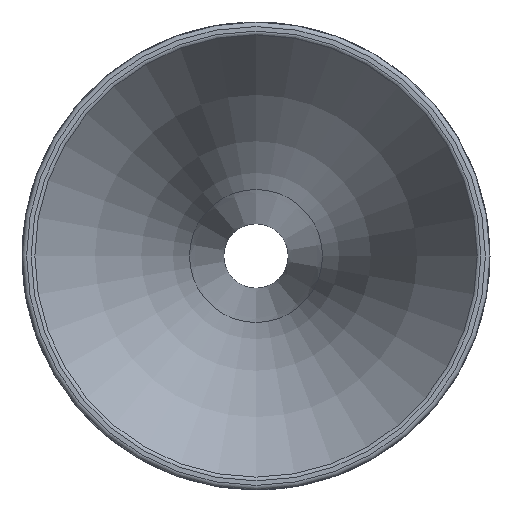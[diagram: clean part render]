
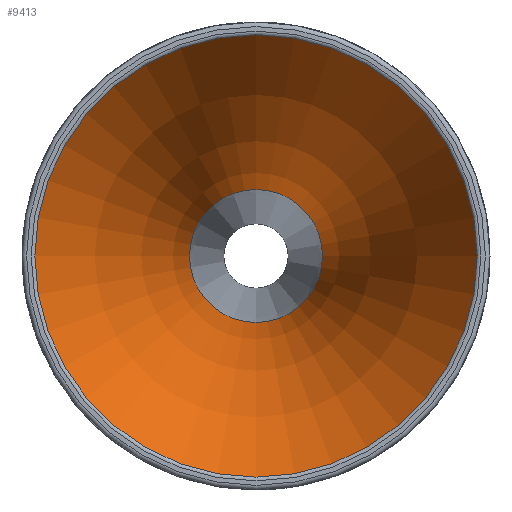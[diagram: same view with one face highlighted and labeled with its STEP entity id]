
A CAD part, front view. The second image highlights one B-rep face of the part: STEP entity #9413.
In plain terms, the highlighted toroidal (fillet/blend) face has major radius 297.261 mm and minor radius 275.091 mm.
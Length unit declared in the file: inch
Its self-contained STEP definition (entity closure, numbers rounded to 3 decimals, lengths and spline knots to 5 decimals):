
#64=TOROIDAL_SURFACE('',#10081,11.7032,10.83034);
#2281=FACE_OUTER_BOUND('',#2847,.T.);
#2847=EDGE_LOOP('',(#8580,#8581,#8582,#8583));
#3010=CIRCLE('',#9850,3.01208);
#3145=CIRCLE('',#10080,0.90625);
#3146=CIRCLE('',#10082,10.83034);
#4318=VERTEX_POINT('',#19391);
#4468=VERTEX_POINT('',#21230);
#5572=EDGE_CURVE('',#4318,#4318,#3010,.T.);
#5848=EDGE_CURVE('',#4468,#4468,#3145,.T.);
#5849=EDGE_CURVE('',#4318,#4468,#3146,.T.);
#8580=ORIENTED_EDGE('',*,*,#5572,.F.);
#8581=ORIENTED_EDGE('',*,*,#5849,.T.);
#8582=ORIENTED_EDGE('',*,*,#5848,.T.);
#8583=ORIENTED_EDGE('',*,*,#5849,.F.);
#9413=ADVANCED_FACE('',(#2281),#64,.T.);
#9850=AXIS2_PLACEMENT_3D('',#19393,#11432,#11433);
#10080=AXIS2_PLACEMENT_3D('',#21232,#11979,#11980);
#10081=AXIS2_PLACEMENT_3D('',#21233,#11981,#11982);
#10082=AXIS2_PLACEMENT_3D('',#21234,#11983,#11984);
#11432=DIRECTION('center_axis',(0.,1.,0.));
#11433=DIRECTION('ref_axis',(0.,0.,-1.));
#11979=DIRECTION('center_axis',(0.,1.,0.));
#11980=DIRECTION('ref_axis',(1.,0.,0.));
#11981=DIRECTION('center_axis',(0.,1.,0.));
#11982=DIRECTION('ref_axis',(0.,0.,1.));
#11983=DIRECTION('center_axis',(-1.,0.,0.));
#11984=DIRECTION('ref_axis',(0.,0.,
-1.));
#19391=CARTESIAN_POINT('',(0.,-11.56854,-3.01208));
#19393=CARTESIAN_POINT('Origin',(0.,-11.56854,0.));
#21230=CARTESIAN_POINT('',(0.,-5.95603,-0.90625));
#21232=CARTESIAN_POINT('Origin',(0.,-5.95603,0.));
#21233=CARTESIAN_POINT('Origin',(0.,-5.10629,0.));
#21234=CARTESIAN_POINT('Origin',(0.,-5.10629,
-11.7032));
